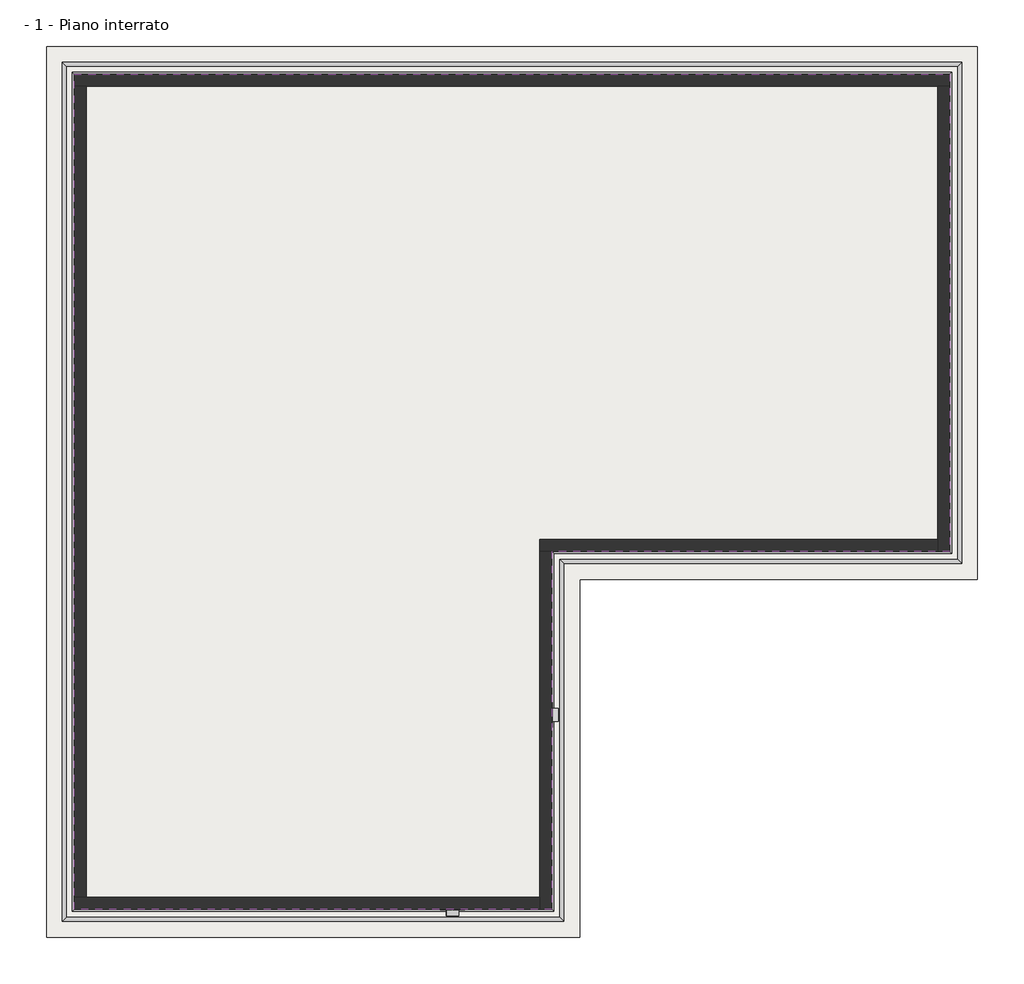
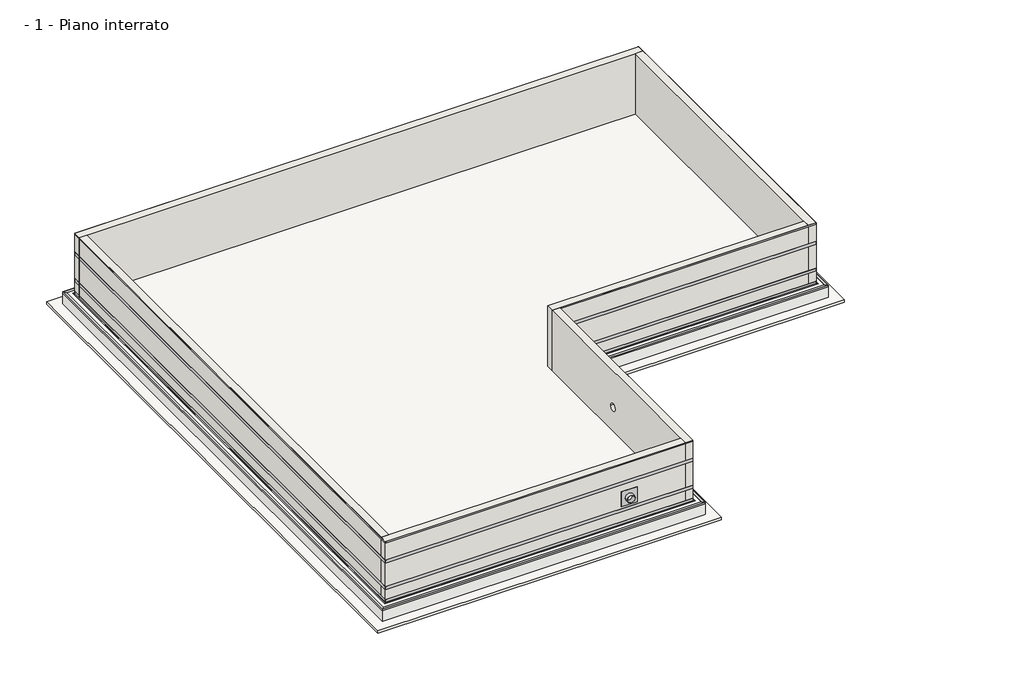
# One storey: 9 proxies, 6 walls, 2 slabs.
"""IFC4 building model written with IfcOpenShell, lengths in millimetres."""

from ifc_helpers import new_model, si_unit, frame, origin, place, context, project, spatial, polyline, circle_curve, outline, extrude, faceted_brep, transform, mapped, element, save
from ifc_brep_helpers import plane_surface, revolved_surface, advanced_brep
from components import generic_models_91e2fdae

model = new_model("IFC4")

# Units and contexts
model_context = context("Model", 3, world=origin())
ifc_project = project(units=[si_unit("LENGTHUNIT", "METRE", prefix="MILLI")], contexts=[model_context])

# Site, building, storey
site = spatial("IfcSite", under=ifc_project)
building = spatial("IfcBuilding", under=site)
storey = spatial("IfcBuildingStorey", under=building, Name="- 1 - Piano interrato", Elevation=-2500.0)

# Proxies
placement = place(None, origin())
element("IfcBuildingElementProxy", 1, Name="AMPHIBIA VOLTECO PRESSURE LINE", ObjectType="AMPHIBIA VOLTECO PRESSURE LINE", at=placement, inside=storey, context=model_context, shape_type="SweptSolid", body=[
    extrude(outline(polyline([(-8121.3472563, -9067.0974438), (-8122.3472563, -9068.0974438), (-8122.3472563, 11933.9025562), (-8121.3472563, 11932.9025562), (-8121.3472563, -9067.0974438)])), frame((0.0, 0.0, -50.0), z_axis=(0.0, 0.0, 1.0), x_axis=(1.0, 0.0, 0.0)), (0.0, 0.0, 1.0), 50.0),
    extrude(outline(polyline([(3878.6527437, -9067.0974438), (3879.6527437, -9068.0974438), (-8122.3472563, -9068.0974438), (-8121.3472563, -9067.0974438), (3878.6527437, -9067.0974438)])), frame((0.0, 0.0, -50.0), z_axis=(0.0, 0.0, 1.0), x_axis=(1.0, 0.0, 0.0)), (0.0, 0.0, 1.0), 50.0),
    extrude(outline(polyline([(3878.6527437, -67.0974438), (3879.6527437, -68.0974438), (3879.6527437, -9068.0974438), (3878.6527437, -9067.0974438), (3878.6527437, -67.0974438)])), frame((0.0, 0.0, -50.0), z_axis=(0.0, 0.0, 1.0), x_axis=(1.0, 0.0, 0.0)), (0.0, 0.0, 1.0), 50.0),
    extrude(outline(polyline([(13878.6527437, -67.0974438), (13879.6527437, -68.0974438), (3879.6527437, -68.0974438), (3878.6527437, -67.0974438), (13878.6527437, -67.0974438)])), frame((0.0, 0.0, -50.0), z_axis=(0.0, 0.0, 1.0), x_axis=(1.0, 0.0, 0.0)), (0.0, 0.0, 1.0), 50.0),
    extrude(outline(polyline([(13878.6527437, 11932.9025562), (13879.6527437, 11933.9025562), (13879.6527437, -68.0974438), (13878.6527437, -67.0974438), (13878.6527437, 11932.9025562)])), frame((0.0, 0.0, -50.0), z_axis=(0.0, 0.0, 1.0), x_axis=(1.0, 0.0, 0.0)), (0.0, 0.0, 1.0), 50.0),
    extrude(outline(polyline([(-8121.3472563, 11932.9025562), (-8122.3472563, 11933.9025562), (13879.6527437, 11933.9025562), (13878.6527437, 11932.9025562), (-8121.3472563, 11932.9025562)])), frame((0.0, 0.0, -50.0), z_axis=(0.0, 0.0, 1.0), x_axis=(1.0, 0.0, 0.0)), (0.0, 0.0, 1.0), 50.0),
])
element("IfcBuildingElementProxy", 2, Name="AMPHIBIA CORNER 90° VOLTECO", ObjectType="AMPHIBIA CORNER 90° VOLTECO", at=placement, inside=storey, context=model_context, shape_type="Brep", body=[
    faceted_brep([(14179.6527437, 12233.9025562, -2550.0), (14178.6527437, 12232.9025562, -2550.0), (-8421.3472563, 12232.9025562, -2550.0), (-8422.3472563, 12233.9025562, -2550.0), (14179.6527437, 12233.9025562, -2499.0), (-8422.3472563, 12233.9025562, -2499.0), (14078.6527437, 12132.9025562, -2499.0), (-8321.3472563, 12132.9025562, -2499.0), (14078.6527437, 12132.9025562, -2500.0), (-8321.3472563, 12132.9025562, -2500.0), (14178.6527437, 12232.9025562, -2500.0), (-8421.3472563, 12232.9025562, -2500.0), (-8421.3472563, -9367.0974438, -2550.0), (-8422.3472563, -9368.0974438, -2550.0), (-8422.3472563, -9368.0974438, -2499.0), (-8321.3472563, -9267.0974438, -2499.0), (-8321.3472563, -9267.0974438, -2500.0), (-8421.3472563, -9367.0974438, -2500.0), (4178.6527437, -9367.0974438, -2550.0), (4179.6527437, -9368.0974438, -2550.0), (4179.6527437, -9368.0974438, -2499.0), (4078.6527437, -9267.0974438, -2499.0), (4078.6527437, -9267.0974438, -2500.0), (4178.6527437, -9367.0974438, -2500.0), (4178.6527437, -367.0974438, -2550.0), (4179.6527437, -368.0974438, -2550.0), (4179.6527437, -368.0974438, -2499.0), (4078.6527437, -267.0974438, -2499.0), (4078.6527437, -267.0974438, -2500.0), (4178.6527437, -367.0974438, -2500.0), (14178.6527437, -367.0974438, -2550.0), (14179.6527437, -368.0974438, -2550.0), (14179.6527437, -368.0974438, -2499.0), (14078.6527437, -267.0974438, -2499.0), (14078.6527437, -267.0974438, -2500.0), (14178.6527437, -367.0974438, -2500.0)], [[[0, 1, 2, 3]], [[4, 0, 3, 5]], [[6, 4, 5, 7]], [[8, 6, 7, 9]], [[10, 8, 9, 11]], [[1, 10, 11, 2]], [[3, 2, 12, 13]], [[5, 3, 13, 14]], [[7, 5, 14, 15]], [[9, 7, 15, 16]], [[11, 9, 16, 17]], [[2, 11, 17, 12]], [[13, 12, 18, 19]], [[14, 13, 19, 20]], [[15, 14, 20, 21]], [[16, 15, 21, 22]], [[17, 16, 22, 23]], [[12, 17, 23, 18]], [[19, 18, 24, 25]], [[20, 19, 25, 26]], [[21, 20, 26, 27]], [[22, 21, 27, 28]], [[23, 22, 28, 29]], [[18, 23, 29, 24]], [[25, 24, 30, 31]], [[26, 25, 31, 32]], [[27, 26, 32, 33]], [[28, 27, 33, 34]], [[29, 28, 34, 35]], [[24, 29, 35, 30]], [[1, 0, 31, 30]], [[0, 4, 32, 31]], [[4, 6, 33, 32]], [[6, 8, 34, 33]], [[8, 10, 35, 34]], [[10, 1, 30, 35]]]),
])
element("IfcBuildingElementProxy", 3, Name="AKTI-VO 201 VOLTECO", ObjectType="AKTI-VO 201 VOLTECO", at=placement, inside=storey, context=model_context, shape_type="SweptSolid", body=[
    extrude(outline(polyline([(13902.5527437, 11956.8025562), (13903.5527437, 11957.8025562), (13903.5527437, -91.9974438), (13902.5527437, -90.9974438), (13902.5527437, 11956.8025562)])), frame((0.0, 0.0, -2500.0), z_axis=(0.0, 0.0, 1.0), x_axis=(1.0, 0.0, 0.0)), (0.0, 0.0, 1.0), 1.0),
    extrude(outline(polyline([(13902.5527437, -90.9974438), (13903.5527437, -91.9974438), (3903.5527437, -91.9974438), (3902.5527437, -90.9974438), (13902.5527437, -90.9974438)])), frame((0.0, 0.0, -2500.0), z_axis=(0.0, 0.0, 1.0), x_axis=(1.0, 0.0, 0.0)), (0.0, 0.0, 1.0), 1.0),
    extrude(outline(polyline([(3902.5527437, -90.9974438), (3903.5527437, -91.9974438), (3903.5527437, -9091.9974438), (3902.5527437, -9090.9974438), (3902.5527437, -90.9974438)])), frame((0.0, 0.0, -2500.0), z_axis=(0.0, 0.0, 1.0), x_axis=(1.0, 0.0, 0.0)), (0.0, 0.0, 1.0), 1.0),
    extrude(outline(polyline([(3902.5527437, -9090.9974438), (3903.5527437, -9091.9974438), (-8146.2472563, -9091.9974438), (-8145.2472563, -9090.9974438), (3902.5527437, -9090.9974438)])), frame((0.0, 0.0, -2500.0), z_axis=(0.0, 0.0, 1.0), x_axis=(1.0, 0.0, 0.0)), (0.0, 0.0, 1.0), 1.0),
    extrude(outline(polyline([(-8145.2472563, 11956.8025562), (-8146.2472563, 11957.8025562), (13903.5527437, 11957.8025562), (13902.5527437, 11956.8025562), (-8145.2472563, 11956.8025562)])), frame((0.0, 0.0, -2500.0), z_axis=(0.0, 0.0, 1.0), x_axis=(1.0, 0.0, 0.0)), (0.0, 0.0, 1.0), 1.0),
    extrude(outline(polyline([(-8145.2472563, -9090.9974438), (-8146.2472563, -9091.9974438), (-8146.2472563, 11957.8025562), (-8145.2472563, 11956.8025562), (-8145.2472563, -9090.9974438)])), frame((0.0, 0.0, -2500.0), z_axis=(0.0, 0.0, 1.0), x_axis=(1.0, 0.0, 0.0)), (0.0, 0.0, 1.0), 1.0),
])
element("IfcBuildingElementProxy", 4, Name="AMPHIBIA CORNER 270° VOLTECO", ObjectType="AMPHIBIA CORNER 270° VOLTECO", at=placement, inside=storey, context=model_context, shape_type="Brep", body=[
    faceted_brep([(13929.6527437, 11983.9025562, -2498.0), (13929.6527437, 11983.9025562, -2499.0), (13878.6527437, 11932.9025562, -2499.0), (13878.6527437, 11932.9025562, -2398.0), (13879.6527437, 11933.9025562, -2398.0), (13879.6527437, 11933.9025562, -2498.0), (13929.6527437, -118.0974438, -2498.0), (13879.6527437, -68.0974438, -2498.0), (13879.6527437, -68.0974438, -2398.0), (13878.6527437, -67.0974438, -2398.0), (13878.6527437, -67.0974438, -2499.0), (13929.6527437, -118.0974438, -2499.0)], [[[0, 1, 2, 3, 4, 5]], [[6, 7, 8, 9, 10, 11]], [[1, 0, 6, 11]], [[2, 1, 11, 10]], [[3, 2, 10, 9]], [[4, 3, 9, 8]], [[5, 4, 8, 7]], [[0, 5, 7, 6]]]),
    faceted_brep([(-8172.3472563, 11983.9025562, -2498.0), (-8172.3472563, 11983.9025562, -2499.0), (-8121.3472563, 11932.9025562, -2499.0), (-8121.3472563, 11932.9025562, -2398.0), (-8122.3472563, 11933.9025562, -2398.0), (-8122.3472563, 11933.9025562, -2498.0), (13929.6527437, 11983.9025562, -2498.0), (13879.6527437, 11933.9025562, -2498.0), (13879.6527437, 11933.9025562, -2398.0), (13878.6527437, 11932.9025562, -2398.0), (13878.6527437, 11932.9025562, -2499.0), (13929.6527437, 11983.9025562, -2499.0)], [[[0, 1, 2, 3, 4, 5]], [[6, 7, 8, 9, 10, 11]], [[1, 0, 6, 11]], [[2, 1, 11, 10]], [[3, 2, 10, 9]], [[4, 3, 9, 8]], [[5, 4, 8, 7]], [[0, 5, 7, 6]]]),
    faceted_brep([(-8172.3472563, -9118.0974438, -2498.0), (-8172.3472563, -9118.0974438, -2499.0), (-8121.3472563, -9067.0974438, -2499.0), (-8121.3472563, -9067.0974438, -2398.0), (-8122.3472563, -9068.0974438, -2398.0), (-8122.3472563, -9068.0974438, -2498.0), (-8172.3472563, 11983.9025562, -2498.0), (-8122.3472563, 11933.9025562, -2498.0), (-8122.3472563, 11933.9025562, -2398.0), (-8121.3472563, 11932.9025562, -2398.0), (-8121.3472563, 11932.9025562, -2499.0), (-8172.3472563, 11983.9025562, -2499.0)], [[[0, 1, 2, 3, 4, 5]], [[6, 7, 8, 9, 10, 11]], [[1, 0, 6, 11]], [[2, 1, 11, 10]], [[3, 2, 10, 9]], [[4, 3, 9, 8]], [[5, 4, 8, 7]], [[0, 5, 7, 6]]]),
    faceted_brep([(3929.6527437, -9118.0974438, -2498.0), (3929.6527437, -9118.0974438, -2499.0), (3878.6527437, -9067.0974438, -2499.0), (3878.6527437, -9067.0974438, -2398.0), (3879.6527437, -9068.0974438, -2398.0), (3879.6527437, -9068.0974438, -2498.0), (-8172.3472563, -9118.0974438, -2498.0), (-8122.3472563, -9068.0974438, -2498.0), (-8122.3472563, -9068.0974438, -2398.0), (-8121.3472563, -9067.0974438, -2398.0), (-8121.3472563, -9067.0974438, -2499.0), (-8172.3472563, -9118.0974438, -2499.0)], [[[0, 1, 2, 3, 4, 5]], [[6, 7, 8, 9, 10, 11]], [[1, 0, 6, 11]], [[2, 1, 11, 10]], [[3, 2, 10, 9]], [[4, 3, 9, 8]], [[5, 4, 8, 7]], [[0, 5, 7, 6]]]),
    faceted_brep([(3929.6527437, -118.0974438, -2498.0), (3929.6527437, -118.0974438, -2499.0), (3878.6527437, -67.0974438, -2499.0), (3878.6527437, -67.0974438, -2398.0), (3879.6527437, -68.0974438, -2398.0), (3879.6527437, -68.0974438, -2498.0), (3929.6527437, -9118.0974438, -2498.0), (3879.6527437, -9068.0974438, -2498.0), (3879.6527437, -9068.0974438, -2398.0), (3878.6527437, -9067.0974438, -2398.0), (3878.6527437, -9067.0974438, -2499.0), (3929.6527437, -9118.0974438, -2499.0)], [[[0, 1, 2, 3, 4, 5]], [[6, 7, 8, 9, 10, 11]], [[1, 0, 6, 11]], [[2, 1, 11, 10]], [[3, 2, 10, 9]], [[4, 3, 9, 8]], [[5, 4, 8, 7]], [[0, 5, 7, 6]]]),
    faceted_brep([(13929.6527437, -118.0974438, -2498.0), (13929.6527437, -118.0974438, -2499.0), (13878.6527437, -67.0974438, -2499.0), (13878.6527437, -67.0974438, -2398.0), (13879.6527437, -68.0974438, -2398.0), (13879.6527437, -68.0974438, -2498.0), (3929.6527437, -118.0974438, -2498.0), (3879.6527437, -68.0974438, -2498.0), (3879.6527437, -68.0974438, -2398.0), (3878.6527437, -67.0974438, -2398.0), (3878.6527437, -67.0974438, -2499.0), (3929.6527437, -118.0974438, -2499.0)], [[[0, 1, 2, 3, 4, 5]], [[6, 7, 8, 9, 10, 11]], [[1, 0, 6, 11]], [[2, 1, 11, 10]], [[3, 2, 10, 9]], [[4, 3, 9, 8]], [[5, 4, 8, 7]], [[0, 5, 7, 6]]]),
])
element("IfcBuildingElementProxy", 5, Name="WT CONSTRUCTION VOLTECO", ObjectType="WT CONSTRUCTION VOLTECO", at=placement, inside=storey, context=model_context, shape_type="SweptSolid", body=[
    extrude(outline(polyline([(3716.1527437, -8904.5974438), (3741.1527437, -8929.5974438), (-7983.8472563, -8929.5974438), (-7958.8472563, -8904.5974438), (3716.1527437, -8904.5974438)])), frame((0.0, 0.0, -2500.0), z_axis=(0.0, 0.0, 1.0), x_axis=(1.0, 0.0, 0.0)), (0.0, 0.0, 1.0), 15.0),
    extrude(outline(polyline([(3716.1527437, 95.4025562), (3741.1527437, 70.4025562), (3741.1527437, -8929.5974438), (3716.1527437, -8904.5974438), (3716.1527437, 95.4025562)])), frame((0.0, 0.0, -2500.0), z_axis=(0.0, 0.0, 1.0), x_axis=(1.0, 0.0, 0.0)), (0.0, 0.0, 1.0), 15.0),
    extrude(outline(polyline([(13716.1527437, 95.4025562), (13741.1527437, 70.4025562), (3741.1527437, 70.4025562), (3716.1527437, 95.4025562), (13716.1527437, 95.4025562)])), frame((0.0, 0.0, -2500.0), z_axis=(0.0, 0.0, 1.0), x_axis=(1.0, 0.0, 0.0)), (0.0, 0.0, 1.0), 15.0),
    extrude(outline(polyline([(13716.1527437, 11770.4025562), (13741.1527437, 11795.4025562), (13741.1527437, 70.4025562), (13716.1527437, 95.4025562), (13716.1527437, 11770.4025562)])), frame((0.0, 0.0, -2500.0), z_axis=(0.0, 0.0, 1.0), x_axis=(1.0, 0.0, 0.0)), (0.0, 0.0, 1.0), 15.0),
    extrude(outline(polyline([(-7958.8472563, 11770.4025562), (-7983.8472563, 11795.4025562), (13741.1527437, 11795.4025562), (13716.1527437, 11770.4025562), (-7958.8472563, 11770.4025562)])), frame((0.0, 0.0, -2500.0), z_axis=(0.0, 0.0, 1.0), x_axis=(1.0, 0.0, 0.0)), (0.0, 0.0, 1.0), 15.0),
    extrude(outline(polyline([(-7958.8472563, -8904.5974438), (-7983.8472563, -8929.5974438), (-7983.8472563, 11795.4025562), (-7958.8472563, 11770.4025562), (-7958.8472563, -8904.5974438)])), frame((0.0, 0.0, -2500.0), z_axis=(0.0, 0.0, 1.0), x_axis=(1.0, 0.0, 0.0)), (0.0, 0.0, 1.0), 15.0),
])
element("IfcBuildingElementProxy", 6, Name="AMPHIBIA 3000 STRIP VOLTECO", ObjectType="AMPHIBIA 3000 STRIP VOLTECO", at=placement, inside=storey, context=model_context, shape_type="SweptSolid", body=[
    extrude(outline(polyline([(3878.6527437, -9067.0974438), (3879.6527437, -9068.0974438), (-8122.3472563, -9068.0974438), (-8121.3472563, -9067.0974438), (3878.6527437, -9067.0974438)])), frame((0.0, 0.0, -880.0), z_axis=(0.0, 0.0, 1.0), x_axis=(1.0, 0.0, 0.0)), (0.0, 0.0, 1.0), 120.0),
    extrude(outline(polyline([(3878.6527437, -67.0974438), (3879.6527437, -68.0974438), (3879.6527437, -9068.0974438), (3878.6527437, -9067.0974438), (3878.6527437, -67.0974438)])), frame((0.0, 0.0, -880.0), z_axis=(0.0, 0.0, 1.0), x_axis=(1.0, 0.0, 0.0)), (0.0, 0.0, 1.0), 120.0),
    extrude(outline(polyline([(13878.6527437, -67.0974438), (13879.6527437, -68.0974438), (3879.6527437, -68.0974438), (3878.6527437, -67.0974438), (13878.6527437, -67.0974438)])), frame((0.0, 0.0, -880.0), z_axis=(0.0, 0.0, 1.0), x_axis=(1.0, 0.0, 0.0)), (0.0, 0.0, 1.0), 120.0),
    extrude(outline(polyline([(13878.6527437, 11932.9025562), (13879.6527437, 11933.9025562), (13879.6527437, -68.0974438), (13878.6527437, -67.0974438), (13878.6527437, 11932.9025562)])), frame((0.0, 0.0, -880.0), z_axis=(0.0, 0.0, 1.0), x_axis=(1.0, 0.0, 0.0)), (0.0, 0.0, 1.0), 120.0),
    extrude(outline(polyline([(-8121.3472563, 11932.9025562), (-8122.3472563, 11933.9025562), (13879.6527437, 11933.9025562), (13878.6527437, 11932.9025562), (-8121.3472563, 11932.9025562)])), frame((0.0, 0.0, -880.0), z_axis=(0.0, 0.0, 1.0), x_axis=(1.0, 0.0, 0.0)), (0.0, 0.0, 1.0), 120.0),
    extrude(outline(polyline([(-8121.3472563, -9067.0974438), (-8122.3472563, -9068.0974438), (-8122.3472563, 11933.9025562), (-8121.3472563, 11932.9025562), (-8121.3472563, -9067.0974438)])), frame((0.0, 0.0, -880.0), z_axis=(0.0, 0.0, 1.0), x_axis=(1.0, 0.0, 0.0)), (0.0, 0.0, 1.0), 120.0),
])
element("IfcBuildingElementProxy", 7, Name="AMPHIBIA 3000 STRIP VOLTECO", ObjectType="AMPHIBIA 3000 STRIP VOLTECO", at=placement, inside=storey, context=model_context, shape_type="SweptSolid", body=[
    extrude(outline(polyline([(3878.6527437, -9067.0974438), (3879.6527437, -9068.0974438), (-8122.3472563, -9068.0974438), (-8121.3472563, -9067.0974438), (3878.6527437, -9067.0974438)])), frame((0.0, 0.0, -1980.0), z_axis=(0.0, 0.0, 1.0), x_axis=(1.0, 0.0, 0.0)), (0.0, 0.0, 1.0), 120.0),
    extrude(outline(polyline([(3878.6527437, -67.0974438), (3879.6527437, -68.0974438), (3879.6527437, -9068.0974438), (3878.6527437, -9067.0974438), (3878.6527437, -67.0974438)])), frame((0.0, 0.0, -1980.0), z_axis=(0.0, 0.0, 1.0), x_axis=(1.0, 0.0, 0.0)), (0.0, 0.0, 1.0), 120.0),
    extrude(outline(polyline([(13878.6527437, -67.0974438), (13879.6527437, -68.0974438), (3879.6527437, -68.0974438), (3878.6527437, -67.0974438), (13878.6527437, -67.0974438)])), frame((0.0, 0.0, -1980.0), z_axis=(0.0, 0.0, 1.0), x_axis=(1.0, 0.0, 0.0)), (0.0, 0.0, 1.0), 120.0),
    extrude(outline(polyline([(13878.6527437, 11932.9025562), (13879.6527437, 11933.9025562), (13879.6527437, -68.0974438), (13878.6527437, -67.0974438), (13878.6527437, 11932.9025562)])), frame((0.0, 0.0, -1980.0), z_axis=(0.0, 0.0, 1.0), x_axis=(1.0, 0.0, 0.0)), (0.0, 0.0, 1.0), 120.0),
    extrude(outline(polyline([(-8121.3472563, 11932.9025562), (-8122.3472563, 11933.9025562), (13879.6527437, 11933.9025562), (13878.6527437, 11932.9025562), (-8121.3472563, 11932.9025562)])), frame((0.0, 0.0, -1980.0), z_axis=(0.0, 0.0, 1.0), x_axis=(1.0, 0.0, 0.0)), (0.0, 0.0, 1.0), 120.0),
    extrude(outline(polyline([(-8121.3472563, -9067.0974438), (-8122.3472563, -9068.0974438), (-8122.3472563, 11933.9025562), (-8121.3472563, 11932.9025562), (-8121.3472563, -9067.0974438)])), frame((0.0, 0.0, -1980.0), z_axis=(0.0, 0.0, 1.0), x_axis=(1.0, 0.0, 0.0)), (0.0, 0.0, 1.0), 120.0),
])
generic_models_shape = generic_models_91e2fdae(model_context)
element("IfcBuildingElementProxy", 8, Name="ENG-Volteco_Amphibia Pipe : ENG-Volteco_Amphibia Pipe", ObjectType="ENG-Volteco_Amphibia Pipe : ENG-Volteco_Amphibia Pipe", at=placement, inside=storey, context=model_context, shape_type="MappedRepresentation", body=[
    mapped(generic_models_shape, transform((3878.6527437, -4175.0974438, -1509.7375596), x_axis=(0.0, 1.0, 0.0), y_axis=(0.0, 0.0, 1.0), z_axis=(1.0, 0.0, 0.0))),
])
element("IfcBuildingElementProxy", 9, Name="ENG-Volteco_Amphibia Pipe : ENG-Volteco_Amphibia Pipe", ObjectType="ENG-Volteco_Amphibia Pipe : ENG-Volteco_Amphibia Pipe", at=placement, inside=storey, context=model_context, shape_type="MappedRepresentation", body=[
    mapped(generic_models_shape, transform((1381.6527437, -9067.0974438, -1461.6877544), x_axis=(1.0, 0.0, 0.0), y_axis=(0.0, 0.0, 1.0), z_axis=(0.0, -1.0, 0.0))),
])

# Slabs
element("IfcSlab", 10, ObjectType="Blinding concrete - 10 cm", at=placement, inside=storey, context=model_context, shape_type="SweptSolid", body=[
    extrude(outline(polyline([(14578.6527437, 12632.9025562), (14578.6527437, -767.0974438), (4578.6527437, -767.0974438), (4578.6527437, -9767.0974438), (-8821.3472563, -9767.0974438), (-8821.3472563, 12632.9025562), (14578.6527437, 12632.9025562)])), frame((0.0, 0.0, -3100.0), z_axis=(0.0, 0.0, 1.0), x_axis=(1.0, 0.0, 0.0)), (0.0, 0.0, 1.0), 100.0),
])
element("IfcSlab", 11, ObjectType="Raft foundation - 50 cm", at=placement, inside=storey, context=model_context, shape_type="Brep", body=[
    faceted_brep([(14178.6527437, 12232.9025562, -3000.0), (14178.6527437, -367.0974438, -3000.0), (4178.6527437, -367.0974438, -3000.0), (4178.6527437, -9367.0974438, -3000.0), (-8421.3472563, -9367.0974438, -3000.0), (-8421.3472563, 12232.9025562, -3000.0), (14178.6527437, 12232.9025562, -2500.0), (-8421.3472563, 12232.9025562, -2500.0), (-8421.3472563, -9367.0974438, -2500.0), (4178.6527437, -9367.0974438, -2500.0), (4178.6527437, -367.0974438, -2500.0), (14178.6527437, -367.0974438, -2500.0), (14178.6527437, 12232.9025562, -2550.0), (14178.6527437, -367.0974438, -2550.0), (4178.6527437, -367.0974438, -2550.0), (4178.6527437, -9367.0974438, -2550.0), (-8421.3472563, -9367.0974438, -2550.0), (-8421.3472563, 12232.9025562, -2550.0)], [[[0, 1, 2, 3, 4, 5]], [[6, 7, 8, 9, 10, 11]], [[1, 0, 12, 6, 11, 13]], [[2, 1, 13, 11, 10, 14]], [[3, 2, 14, 10, 9, 15]], [[4, 3, 15, 9, 8, 16]], [[5, 4, 16, 8, 7, 17]], [[0, 5, 17, 7, 6, 12]]]),
])

# Walls
element("IfcWall", 12, ObjectType="Foundation walls - 30 cm", at=placement, inside=storey, context=model_context, shape_type="Brep", body=[
    faceted_brep([(13878.6527437, 11632.9025562, 0.0), (13578.6527437, 11632.9025562, 0.0), (-7821.3472563, 11632.9025562, 0.0), (-8121.3472563, 11632.9025562, 0.0), (-8121.3472563, 11632.9025562, -50.0), (-8121.3472563, 11632.9025562, -760.0), (-8121.3472563, 11632.9025562, -880.0), (-8121.3472563, 11632.9025562, -1860.0), (-8121.3472563, 11632.9025562, -1980.0), (-8121.3472563, 11632.9025562, -2398.0), (-8121.3472563, 11632.9025562, -2499.0), (-8121.3472563, 11632.9025562, -2500.0), (-7983.8472563, 11632.9025562, -2500.0), (-7983.8472563, 11632.9025562, -2485.0), (-7958.8472563, 11632.9025562, -2485.0), (-7958.8472563, 11632.9025562, -2500.0), (-7821.3472563, 11632.9025562, -2500.0), (13578.6527437, 11632.9025562, -2500.0), (13716.1527437, 11632.9025562, -2500.0), (13716.1527437, 11632.9025562, -2485.0), (13741.1527437, 11632.9025562, -2485.0), (13741.1527437, 11632.9025562, -2500.0), (13878.6527437, 11632.9025562, -2500.0), (13878.6527437, 11632.9025562, -2499.0), (13878.6527437, 11632.9025562, -2398.0), (13878.6527437, 11632.9025562, -1980.0), (13878.6527437, 11632.9025562, -1860.0), (13878.6527437, 11632.9025562, -880.0), (13878.6527437, 11632.9025562, -760.0), (13878.6527437, 11632.9025562, -50.0), (-8121.3472563, 11932.9025562, 0.0), (13878.6527437, 11932.9025562, 0.0), (13878.6527437, 11932.9025562, -50.0), (13878.6527437, 11932.9025562, -760.0), (13878.6527437, 11932.9025562, -880.0), (13878.6527437, 11932.9025562, -1860.0), (13878.6527437, 11932.9025562, -1980.0), (13878.6527437, 11932.9025562, -2398.0), (13878.6527437, 11932.9025562, -2499.0), (13878.6527437, 11932.9025562, -2500.0), (-8121.3472563, 11932.9025562, -2500.0), (-8121.3472563, 11932.9025562, -2499.0), (-8121.3472563, 11932.9025562, -2398.0), (-8121.3472563, 11932.9025562, -1980.0), (-8121.3472563, 11932.9025562, -1860.0), (-8121.3472563, 11932.9025562, -880.0), (-8121.3472563, 11932.9025562, -760.0), (-8121.3472563, 11932.9025562, -50.0), (13741.1527437, 11795.4025562, -2500.0), (-7983.8472563, 11795.4025562, -2500.0), (-7958.8472563, 11770.4025562, -2500.0), (13716.1527437, 11770.4025562, -2500.0), (-7958.8472563, 11770.4025562, -2485.0), (13716.1527437, 11770.4025562, -2485.0), (-7983.8472563, 11795.4025562, -2485.0), (13741.1527437, 11795.4025562, -2485.0)], [[[0, 1, 2, 3, 4, 5, 6, 7, 8, 9, 10, 11, 12, 13, 14, 15, 16, 17, 18, 19, 20, 21, 22, 23, 24, 25, 26, 27, 28, 29]], [[30, 31, 32, 33, 34, 35, 36, 37, 38, 39, 40, 41, 42, 43, 44, 45, 46, 47]], [[3, 2, 1, 0, 31, 30]], [[31, 0, 29, 28, 27, 26, 25, 24, 23, 22, 39, 38, 37, 36, 35, 34, 33, 32]], [[3, 30, 47, 46, 45, 44, 43, 42, 41, 40, 11, 10, 9, 8, 7, 6, 5, 4]], [[11, 40, 39, 22, 21, 48, 49, 12]], [[18, 17, 16, 15, 50, 51]], [[52, 50, 15, 14]], [[50, 52, 53, 51]], [[51, 53, 19, 18]], [[53, 52, 14, 13, 54, 55, 20, 19]], [[49, 54, 13, 12]], [[55, 54, 49, 48]], [[55, 48, 21, 20]]]),
])
element("IfcWall", 13, ObjectType="Foundation walls - 30 cm", at=placement, inside=storey, context=model_context, shape_type="Brep", body=[
    faceted_brep([(13578.6527437, -67.0974438, 0.0), (13578.6527437, 232.9025562, 0.0), (13578.6527437, 11632.9025562, 0.0), (13578.6527437, 11632.9025562, -2500.0), (13578.6527437, 232.9025562, -2500.0), (13578.6527437, 95.4025562, -2500.0), (13578.6527437, 95.4025562, -2485.0), (13578.6527437, 70.4025562, -2485.0), (13578.6527437, 70.4025562, -2500.0), (13578.6527437, -67.0974438, -2500.0), (13578.6527437, -67.0974438, -2499.0), (13578.6527437, -67.0974438, -2398.0), (13578.6527437, -67.0974438, -1980.0), (13578.6527437, -67.0974438, -1860.0), (13578.6527437, -67.0974438, -880.0), (13578.6527437, -67.0974438, -760.0), (13578.6527437, -67.0974438, -50.0), (13878.6527437, 11632.9025562, 0.0), (13878.6527437, -67.0974438, 0.0), (13878.6527437, -67.0974438, -50.0), (13878.6527437, -67.0974438, -760.0), (13878.6527437, -67.0974438, -880.0), (13878.6527437, -67.0974438, -1860.0), (13878.6527437, -67.0974438, -1980.0), (13878.6527437, -67.0974438, -2398.0), (13878.6527437, -67.0974438, -2499.0), (13878.6527437, -67.0974438, -2500.0), (13878.6527437, 11632.9025562, -2500.0), (13878.6527437, 11632.9025562, -2499.0), (13878.6527437, 11632.9025562, -2398.0), (13878.6527437, 11632.9025562, -1980.0), (13878.6527437, 11632.9025562, -1860.0), (13878.6527437, 11632.9025562, -880.0), (13878.6527437, 11632.9025562, -760.0), (13878.6527437, 11632.9025562, -50.0), (13741.1527437, 11632.9025562, -2500.0), (13741.1527437, 11632.9025562, -2485.0), (13716.1527437, 11632.9025562, -2485.0), (13716.1527437, 11632.9025562, -2500.0), (13741.1527437, 70.4025562, -2500.0), (13716.1527437, 95.4025562, -2500.0), (13716.1527437, 95.4025562, -2485.0), (13741.1527437, 70.4025562, -2485.0)], [[[0, 1, 2, 3, 4, 5, 6, 7, 8, 9, 10, 11, 12, 13, 14, 15, 16]], [[17, 18, 19, 20, 21, 22, 23, 24, 25, 26, 27, 28, 29, 30, 31, 32, 33, 34]], [[2, 1, 0, 18, 17]], [[3, 2, 17, 34, 33, 32, 31, 30, 29, 28, 27, 35, 36, 37, 38]], [[18, 0, 16, 15, 14, 13, 12, 11, 10, 9, 26, 25, 24, 23, 22, 21, 20, 19]], [[27, 26, 9, 8, 39, 35]], [[5, 4, 3, 38, 40]], [[41, 40, 38, 37]], [[40, 41, 6, 5]], [[6, 41, 37, 36, 42, 7]], [[39, 42, 36, 35]], [[42, 39, 8, 7]]]),
])
element("IfcWall", 14, ObjectType="Foundation walls - 30 cm", at=placement, inside=storey, context=model_context, shape_type="Brep", body=[
    faceted_brep([(3578.6527437, 232.9025562, 0.0), (13578.6527437, 232.9025562, 0.0), (13578.6527437, 232.9025562, -2500.0), (3578.6527437, 232.9025562, -2500.0), (3578.6527437, -67.0974438, 0.0), (3578.6527437, -67.0974438, -2500.0), (3716.1527437, -67.0974438, -2500.0), (3716.1527437, -67.0974438, -2485.0), (3741.1527437, -67.0974438, -2485.0), (3741.1527437, -67.0974438, -2500.0), (3878.6527437, -67.0974438, -2500.0), (13578.6527437, -67.0974438, -2500.0), (13578.6527437, -67.0974438, -2499.0), (13578.6527437, -67.0974438, -2398.0), (13578.6527437, -67.0974438, -1980.0), (13578.6527437, -67.0974438, -1860.0), (13578.6527437, -67.0974438, -880.0), (13578.6527437, -67.0974438, -760.0), (13578.6527437, -67.0974438, -50.0), (13578.6527437, -67.0974438, 0.0), (3878.6527437, -67.0974438, 0.0), (13578.6527437, 70.4025562, -2500.0), (13578.6527437, 70.4025562, -2485.0), (13578.6527437, 95.4025562, -2485.0), (13578.6527437, 95.4025562, -2500.0), (3716.1527437, 95.4025562, -2500.0), (3741.1527437, 70.4025562, -2500.0), (3716.1527437, 95.4025562, -2485.0), (3741.1527437, 70.4025562, -2485.0)], [[[0, 1, 2, 3]], [[4, 5, 6, 7, 8, 9, 10, 11, 12, 13, 14, 15, 16, 17, 18, 19, 20]], [[1, 0, 4, 20, 19]], [[2, 1, 19, 18, 17, 16, 15, 14, 13, 12, 11, 21, 22, 23, 24]], [[0, 3, 5, 4]], [[3, 2, 24, 25, 6, 5]], [[11, 10, 9, 26, 21]], [[27, 25, 24, 23]], [[25, 27, 7, 6]], [[7, 27, 23, 22, 28, 8]], [[26, 28, 22, 21]], [[28, 26, 9, 8]]]),
])
element("IfcWall", 15, ObjectType="Foundation walls - 30 cm", at=placement, inside=storey, context=model_context, shape_type="AdvancedBrep", body=[
    advanced_brep(
    [(3578.6527437, -9067.0974438, 0.0), (3578.6527437, -8767.0974438, 0.0), (3578.6527437, -67.0974438, 0.0), (3578.6527437, -67.0974438, -2500.0), (3578.6527437, -8767.0974438, -2500.0), (3578.6527437, -8904.5974438, -2500.0), (3578.6527437, -8904.5974438, -2485.0), (3578.6527437, -8929.5974438, -2485.0), (3578.6527437, -8929.5974438, -2500.0), (3578.6527437, -9067.0974438, -2500.0), (3578.6527437, -9067.0974438, -2499.0), (3578.6527437, -9067.0974438, -2398.0), (3578.6527437, -9067.0974438, -1980.0), (3578.6527437, -9067.0974438, -1860.0), (3578.6527437, -9067.0974438, -880.0), (3578.6527437, -9067.0974438, -760.0), (3578.6527437, -9067.0974438, -50.0), (3578.6527437, -4325.0974438, -1509.7375596), (3578.6527437, -4025.0974438, -1509.7375596), (3878.6527437, -67.0974438, 0.0), (3878.6527437, -9067.0974438, 0.0), (3878.6527437, -9067.0974438, -50.0), (3878.6527437, -9067.0974438, -760.0), (3878.6527437, -9067.0974438, -880.0), (3878.6527437, -9067.0974438, -1860.0), (3878.6527437, -9067.0974438, -1980.0), (3878.6527437, -9067.0974438, -2398.0), (3878.6527437, -9067.0974438, -2499.0), (3878.6527437, -9067.0974438, -2500.0), (3878.6527437, -67.0974438, -2500.0), (3878.6527437, -67.0974438, -2499.0), (3878.6527437, -67.0974438, -2398.0), (3878.6527437, -67.0974438, -1980.0), (3878.6527437, -67.0974438, -1860.0), (3878.6527437, -67.0974438, -880.0), (3878.6527437, -67.0974438, -760.0), (3878.6527437, -67.0974438, -50.0), (3878.6527437, -4025.0974438, -1509.7375596), (3878.6527437, -4325.0974438, -1509.7375596), (3741.1527437, -67.0974438, -2500.0), (3741.1527437, -67.0974438, -2485.0), (3716.1527437, -67.0974438, -2485.0), (3716.1527437, -67.0974438, -2500.0), (3741.1527437, -8929.5974438, -2500.0), (3716.1527437, -8904.5974438, -2500.0), (3716.1527437, -8904.5974438, -2485.0), (3741.1527437, -8929.5974438, -2485.0)],
    [
        (0, 1),
        (1, 2),
        (2, 3),
        (3, 4),
        (4, 5),
        (5, 6),
        (6, 7),
        (7, 8),
        (8, 9),
        (9, 10),
        (10, 11),
        (11, 12),
        (12, 13),
        (13, 14),
        (14, 15),
        (15, 16),
        (16, 0),
        (17, 18, circle_curve(frame((3578.6527437, -4175.0974438, -1509.7375596), z_axis=(1.0, 0.0, 0.0), x_axis=(0.0, 1.0, 0.0)), 150.0)),
        (18, 17, circle_curve(frame((3578.6527437, -4175.0974438, -1509.7375596), z_axis=(1.0, 0.0, 0.0), x_axis=(0.0, 1.0, 0.0)), 150.0)),
        (19, 20),
        (20, 21),
        (21, 22),
        (22, 23),
        (23, 24),
        (24, 25),
        (25, 26),
        (26, 27),
        (27, 28),
        (28, 29),
        (29, 30),
        (30, 31),
        (31, 32),
        (32, 33),
        (33, 34),
        (34, 35),
        (35, 36),
        (36, 19),
        (37, 38, circle_curve(frame((3878.6527437, -4175.0974438, -1509.7375596), z_axis=(-1.0, 0.0, 0.0), x_axis=(0.0, 1.0, 0.0)), 150.0)),
        (38, 37, circle_curve(frame((3878.6527437, -4175.0974438, -1509.7375596), z_axis=(-1.0, 0.0, 0.0), x_axis=(0.0, 1.0, 0.0)), 150.0)),
        (0, 20),
        (19, 2),
        (29, 39),
        (39, 40),
        (40, 41),
        (41, 42),
        (42, 3),
        (9, 28),
        (8, 43),
        (43, 39),
        (42, 44),
        (44, 5),
        (17, 38),
        (37, 18),
        (45, 44),
        (41, 45),
        (45, 6),
        (40, 46),
        (46, 7),
        (43, 46),
    ],
    [
        plane_surface(frame((3578.6527437, -67.0974438, -2500.0), z_axis=(-1.0, 0.0, 0.0), x_axis=(0.0, -1.0, 0.0))),
        plane_surface(frame((3878.6527437, -67.0974438, -2500.0), z_axis=(1.0, 0.0, 0.0), x_axis=(0.0, 1.0, 0.0))),
        plane_surface(frame((3578.6527437, -8917.0974438, 0.0), z_axis=(0.0, 0.0, 1.0), x_axis=(1.0, 0.0, 0.0))),
        plane_surface(frame((13878.6527437, -67.0974438, -2500.0), z_axis=(0.0, 1.0, 0.0), x_axis=(1.0, 0.0, 0.0))),
        plane_surface(frame((3878.6527437, -9067.0974438, -2500.0), z_axis=(0.0, -1.0, 0.0), x_axis=(1.0, 0.0, 0.0))),
        plane_surface(frame((14178.6527437, 11932.9025562, -2500.0), z_axis=(0.0, 0.0, -1.0), x_axis=(0.0, 1.0, 0.0))),
        revolved_surface(polyline([(3878.6527437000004, -4025.0974438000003, -1509.7375596), (3578.6527437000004, -4025.0974438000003, -1509.7375596)]), (1286.2890556, -4175.0974438, -1509.7375596), (1.0, 0.0, 0.0)),
        plane_surface(frame((3716.1527437, 95.4025562, -2500.0), z_axis=(1.0, 0.0, 0.0), x_axis=(0.0, -1.0, 0.0))),
        plane_surface(frame((3716.1527437, -8904.5974438, -2500.0), z_axis=(0.0, -1.0, 0.0), x_axis=(-1.0, 0.0, 0.0))),
        plane_surface(frame((13878.6527437, 95.4025562, -2485.0), z_axis=(0.0, 0.0, -1.0), x_axis=(-1.0, 0.0, 0.0))),
        plane_surface(frame((3741.1527437, 70.4025562, -2485.0), z_axis=(-1.0, 0.0, 0.0), x_axis=(0.0, -1.0, 0.0))),
        plane_surface(frame((3741.1527437, -8929.5974438, -2485.0), z_axis=(0.0, 1.0, 0.0), x_axis=(-1.0, 0.0, 0.0))),
    ],
    [
        (0, [[1, 2, 3, 4, 5, 6, 7, 8, 9, 10, 11, 12, 13, 14, 15, 16, 17], [18, 19]]),
        (1, [[20, 21, 22, 23, 24, 25, 26, 27, 28, 29, 30, 31, 32, 33, 34, 35, 36, 37], [38, 39]]),
        (2, [[-2, -1, 40, -20, 41]]),
        (3, [[-3, -41, -37, -36, -35, -34, -33, -32, -31, -30, 42, 43, 44, 45, 46]]),
        (4, [[-40, -17, -16, -15, -14, -13, -12, -11, -10, 47, -28, -27, -26, -25, -24, -23, -22, -21]]),
        (5, [[-29, -47, -9, 48, 49, -42]]),
        (5, [[-5, -4, -46, 50, 51]]),
        (6, [[52, -38, 53, -18]]),
        (6, [[-52, -19, -53, -39]]),
        (7, [[54, -50, -45, 55]]),
        (8, [[-54, 56, -6, -51]]),
        (9, [[-56, -55, -44, 57, 58, -7]]),
        (10, [[59, -57, -43, -49]]),
        (11, [[-59, -48, -8, -58]]),
    ],
),
])
element("IfcWall", 16, ObjectType="Foundation walls - 30 cm", at=placement, inside=storey, context=model_context, shape_type="AdvancedBrep", body=[
    advanced_brep(
    [(-8121.3472563, -8767.0974438, 0.0), (-7821.3472563, -8767.0974438, 0.0), (3578.6527437, -8767.0974438, 0.0), (3578.6527437, -8767.0974438, -2500.0), (-7821.3472563, -8767.0974438, -2500.0), (-7958.8472563, -8767.0974438, -2500.0), (-7958.8472563, -8767.0974438, -2485.0), (-7983.8472563, -8767.0974438, -2485.0), (-7983.8472563, -8767.0974438, -2500.0), (-8121.3472563, -8767.0974438, -2500.0), (-8121.3472563, -8767.0974438, -2499.0), (-8121.3472563, -8767.0974438, -2398.0), (-8121.3472563, -8767.0974438, -1980.0), (-8121.3472563, -8767.0974438, -1860.0), (-8121.3472563, -8767.0974438, -880.0), (-8121.3472563, -8767.0974438, -760.0), (-8121.3472563, -8767.0974438, -50.0), (1231.6527437, -8767.0974438, -1461.6877544), (1531.6527437, -8767.0974438, -1461.6877544), (3578.6527437, -9067.0974438, 0.0), (-8121.3472563, -9067.0974438, 0.0), (-8121.3472563, -9067.0974438, -50.0), (-8121.3472563, -9067.0974438, -760.0), (-8121.3472563, -9067.0974438, -880.0), (-8121.3472563, -9067.0974438, -1860.0), (-8121.3472563, -9067.0974438, -1980.0), (-8121.3472563, -9067.0974438, -2398.0), (-8121.3472563, -9067.0974438, -2499.0), (-8121.3472563, -9067.0974438, -2500.0), (3578.6527437, -9067.0974438, -2500.0), (3578.6527437, -9067.0974438, -2499.0), (3578.6527437, -9067.0974438, -2398.0), (3578.6527437, -9067.0974438, -1980.0), (3578.6527437, -9067.0974438, -1860.0), (3578.6527437, -9067.0974438, -880.0), (3578.6527437, -9067.0974438, -760.0), (3578.6527437, -9067.0974438, -50.0), (1531.6527437, -9067.0974438, -1461.6877544), (1231.6527437, -9067.0974438, -1461.6877544), (3578.6527437, -8929.5974438, -2500.0), (3578.6527437, -8929.5974438, -2485.0), (3578.6527437, -8904.5974438, -2485.0), (3578.6527437, -8904.5974438, -2500.0), (-7983.8472563, -8929.5974438, -2500.0), (-7958.8472563, -8904.5974438, -2500.0), (-7958.8472563, -8904.5974438, -2485.0), (-7983.8472563, -8929.5974438, -2485.0)],
    [
        (0, 1),
        (1, 2),
        (2, 3),
        (3, 4),
        (4, 5),
        (5, 6),
        (6, 7),
        (7, 8),
        (8, 9),
        (9, 10),
        (10, 11),
        (11, 12),
        (12, 13),
        (13, 14),
        (14, 15),
        (15, 16),
        (16, 0),
        (17, 18, circle_curve(frame((1381.6527437, -8767.0974438, -1461.6877544), z_axis=(0.0, -1.0, 0.0), x_axis=(1.0, 0.0, 0.0)), 150.0)),
        (18, 17, circle_curve(frame((1381.6527437, -8767.0974438, -1461.6877544), z_axis=(0.0, -1.0, 0.0), x_axis=(1.0, 0.0, 0.0)), 150.0)),
        (19, 20),
        (20, 21),
        (21, 22),
        (22, 23),
        (23, 24),
        (24, 25),
        (25, 26),
        (26, 27),
        (27, 28),
        (28, 29),
        (29, 30),
        (30, 31),
        (31, 32),
        (32, 33),
        (33, 34),
        (34, 35),
        (35, 36),
        (36, 19),
        (37, 38, circle_curve(frame((1381.6527437, -9067.0974438, -1461.6877544), z_axis=(0.0, 1.0, 0.0), x_axis=(1.0, 0.0, 0.0)), 150.0)),
        (38, 37, circle_curve(frame((1381.6527437, -9067.0974438, -1461.6877544), z_axis=(0.0, 1.0, 0.0), x_axis=(1.0, 0.0, 0.0)), 150.0)),
        (0, 20),
        (19, 2),
        (29, 39),
        (39, 40),
        (40, 41),
        (41, 42),
        (42, 3),
        (9, 28),
        (8, 43),
        (43, 39),
        (42, 44),
        (44, 5),
        (17, 38),
        (37, 18),
        (45, 44),
        (41, 45),
        (45, 6),
        (40, 46),
        (46, 7),
        (43, 46),
    ],
    [
        plane_surface(frame((3878.6527437, -8767.0974438, -2500.0), z_axis=(0.0, 1.0, 0.0), x_axis=(-1.0, 0.0, 0.0))),
        plane_surface(frame((3878.6527437, -9067.0974438, -2500.0), z_axis=(0.0, -1.0, 0.0), x_axis=(1.0, 0.0, 0.0))),
        plane_surface(frame((-7971.3472563, -8767.0974438, 0.0), z_axis=(0.0, 0.0, 1.0), x_axis=(0.0, -1.0, 0.0))),
        plane_surface(frame((3578.6527437, -67.0974438, -2500.0), z_axis=(1.0, 0.0, 0.0), x_axis=(0.0, -1.0, 0.0))),
        plane_surface(frame((-8121.3472563, -9067.0974438, -2500.0), z_axis=(-1.0, 0.0, 0.0), x_axis=(0.0, -1.0, 0.0))),
        plane_surface(frame((14178.6527437, 11932.9025562, -2500.0), z_axis=(0.0, 0.0, -1.0), x_axis=(0.0, 1.0, 0.0))),
        revolved_surface(polyline([(1531.6527437, -9067.0974438, -1461.6877544), (1531.6527437, -8767.0974438, -1461.6877544)]), (1381.6527437, -6474.7337557, -1461.6877544), (0.0, -1.0, 0.0)),
        plane_surface(frame((3716.1527437, -8904.5974438, -2500.0), z_axis=(0.0, -1.0, 0.0), x_axis=(-1.0, 0.0, 0.0))),
        plane_surface(frame((-7958.8472563, -8904.5974438, -2500.0), z_axis=(-1.0, 0.0, 0.0), x_axis=(0.0, 1.0, 0.0))),
        plane_surface(frame((3716.1527437, -67.0974438, -2485.0), z_axis=(0.0, 0.0, -1.0), x_axis=(0.0, -1.0, 0.0))),
        plane_surface(frame((3741.1527437, -8929.5974438, -2485.0), z_axis=(0.0, 1.0, 0.0), x_axis=(-1.0, 0.0, 0.0))),
        plane_surface(frame((-7983.8472563, -8929.5974438, -2485.0), z_axis=(1.0, 0.0, 0.0), x_axis=(0.0, 1.0, 0.0))),
    ],
    [
        (0, [[1, 2, 3, 4, 5, 6, 7, 8, 9, 10, 11, 12, 13, 14, 15, 16, 17], [18, 19]]),
        (1, [[20, 21, 22, 23, 24, 25, 26, 27, 28, 29, 30, 31, 32, 33, 34, 35, 36, 37], [38, 39]]),
        (2, [[-2, -1, 40, -20, 41]]),
        (3, [[-3, -41, -37, -36, -35, -34, -33, -32, -31, -30, 42, 43, 44, 45, 46]]),
        (4, [[-40, -17, -16, -15, -14, -13, -12, -11, -10, 47, -28, -27, -26, -25, -24, -23, -22, -21]]),
        (5, [[-29, -47, -9, 48, 49, -42]]),
        (5, [[-5, -4, -46, 50, 51]]),
        (6, [[52, -38, 53, -18]]),
        (6, [[-52, -19, -53, -39]]),
        (7, [[54, -50, -45, 55]]),
        (8, [[-54, 56, -6, -51]]),
        (9, [[-56, -55, -44, 57, 58, -7]]),
        (10, [[59, -57, -43, -49]]),
        (11, [[-59, -48, -8, -58]]),
    ],
),
])
element("IfcWall", 17, ObjectType="Foundation walls - 30 cm", at=placement, inside=storey, context=model_context, shape_type="Brep", body=[
    faceted_brep([(-7821.3472563, 11632.9025562, 0.0), (-7821.3472563, -8767.0974438, 0.0), (-7821.3472563, -8767.0974438, -2500.0), (-7821.3472563, 11632.9025562, -2500.0), (-8121.3472563, -8767.0974438, 0.0), (-8121.3472563, 11632.9025562, 0.0), (-8121.3472563, 11632.9025562, -50.0), (-8121.3472563, 11632.9025562, -760.0), (-8121.3472563, 11632.9025562, -880.0), (-8121.3472563, 11632.9025562, -1860.0), (-8121.3472563, 11632.9025562, -1980.0), (-8121.3472563, 11632.9025562, -2398.0), (-8121.3472563, 11632.9025562, -2499.0), (-8121.3472563, 11632.9025562, -2500.0), (-8121.3472563, -8767.0974438, -2500.0), (-8121.3472563, -8767.0974438, -2499.0), (-8121.3472563, -8767.0974438, -2398.0), (-8121.3472563, -8767.0974438, -1980.0), (-8121.3472563, -8767.0974438, -1860.0), (-8121.3472563, -8767.0974438, -880.0), (-8121.3472563, -8767.0974438, -760.0), (-8121.3472563, -8767.0974438, -50.0), (-7958.8472563, 11632.9025562, -2500.0), (-7958.8472563, 11632.9025562, -2485.0), (-7983.8472563, 11632.9025562, -2485.0), (-7983.8472563, 11632.9025562, -2500.0), (-7983.8472563, -8767.0974438, -2500.0), (-7983.8472563, -8767.0974438, -2485.0), (-7958.8472563, -8767.0974438, -2485.0), (-7958.8472563, -8767.0974438, -2500.0)], [[[0, 1, 2, 3]], [[4, 5, 6, 7, 8, 9, 10, 11, 12, 13, 14, 15, 16, 17, 18, 19, 20, 21]], [[1, 0, 5, 4]], [[0, 3, 22, 23, 24, 25, 13, 12, 11, 10, 9, 8, 7, 6, 5]], [[2, 1, 4, 21, 20, 19, 18, 17, 16, 15, 14, 26, 27, 28, 29]], [[3, 2, 29, 22]], [[14, 13, 25, 26]], [[28, 23, 22, 29]], [[23, 28, 27, 24]], [[24, 27, 26, 25]]]),
])

save(model, "model.ifc")
